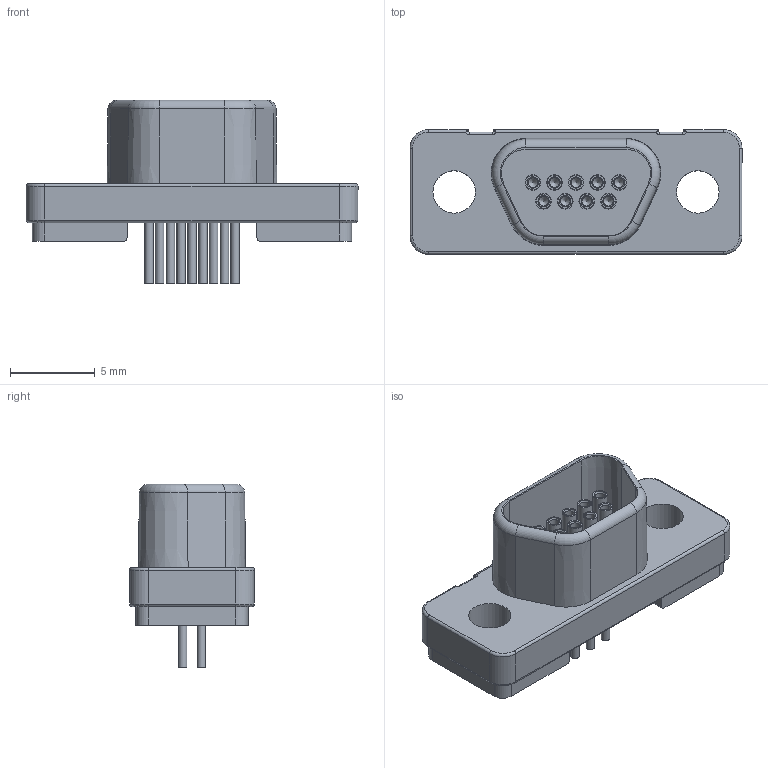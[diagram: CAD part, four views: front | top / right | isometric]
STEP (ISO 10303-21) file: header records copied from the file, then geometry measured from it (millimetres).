
FILE_DESCRIPTION (( 'STEP AP203' ), '1' );
FILE_NAME ('380-009-213L001.STEP', '2021-06-16T15:55:18', ( '' ), ( '' ), 'SwSTEP 2.0', 'SolidWorks 2020', '' );
FILE_SCHEMA (( 'CONFIG_CONTROL_DESIGN' ));
Length unit declared in the file: millimetre
Products named in the file (1): 380-009-213L001
Bounding box: 19.55 x 7.35 x 10.8 mm (x, y, z)
Volume: 455.1 mm3; surface area: 942.8 mm2
Topology: 1 solids, 1 shells, 218 faces, 478 edges, 301 vertices
Faces by surface type: cylinder 95, plane 77, cone 26, torus 20
Full cylindrical faces by diameter (mm): 0.5 x9, 0.57 x9, 0.85 x9, 0.92 x9, 1 x9, 2.5 x2
Entity records: 5799 total; most frequent: CARTESIAN_POINT 1207, DIRECTION 996, ORIENTED_EDGE 790, AXIS2_PLACEMENT_3D 424, EDGE_CURVE 395, EDGE_LOOP 326, VERTEX_POINT 283, FACE_OUTER_BOUND 265
